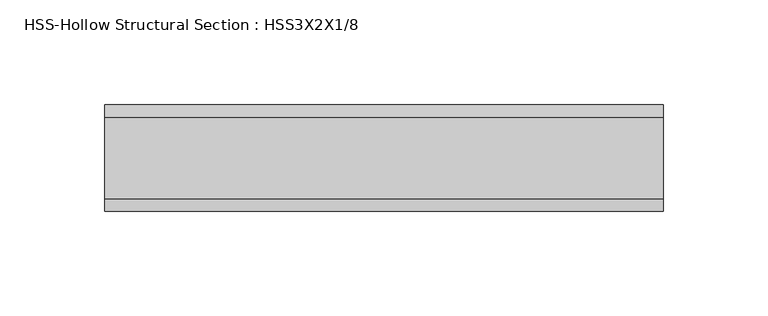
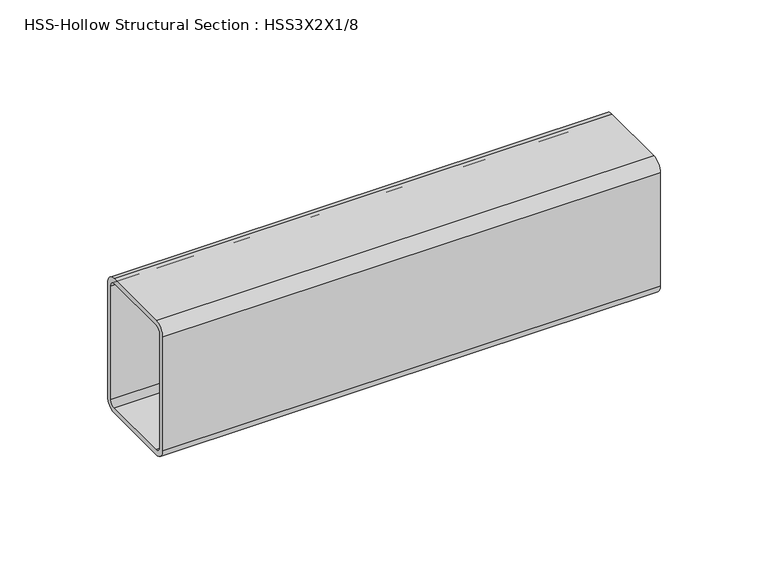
"""IFC4 building model written with IfcOpenShell, lengths in millimetres: beam geometry, HSS-Hollow Structural Section : HSS3X2X1/8."""

from ifc_helpers import new_model, si_unit, point, frame, frame_2d, origin, place, context, project, spatial, polyline, circle_curve, trimmed, segment, composite_curve, outline, extrude, source, transform, mapped, element, save


def hss_hollow_structural_section_hss3x2x1_8_4448584e(model_context):
    return source(origin(), model_context, "Body", "SweptSolid", [
        extrude(outline(composite_curve([segment(polyline([(25.4, 32.2072), (25.4, -32.2072)]), True, "CONTINUOUS"), segment(trimmed(circle_curve(frame_2d((19.5072, -32.2072)), 5.8928), [point((25.4, -32.2072))], [point((19.5072, -38.1))], False, "CARTESIAN"), True, "CONTINUOUS"), segment(polyline([(19.5072, -38.1), (-19.5072, -38.1)]), True, "CONTINUOUS"), segment(trimmed(circle_curve(frame_2d((-19.5072, -32.2072)), 5.8928), [point((-19.5072, -38.1))], [point((-25.4, -32.2072))], False, "CARTESIAN"), True, "CONTINUOUS"), segment(polyline([(-25.4, -32.2072), (-25.4, 32.2072)]), True, "CONTINUOUS"), segment(trimmed(circle_curve(frame_2d((-19.5072, 32.2072)), 5.8928), [point((-25.4, 32.2072))], [point((-19.5072, 38.1))], False, "CARTESIAN"), True, "CONTINUOUS"), segment(polyline([(-19.5072, 38.1), (19.5072, 38.1)]), True, "CONTINUOUS"), segment(trimmed(circle_curve(frame_2d((19.5072, 32.2072)), 5.8928), [point((19.5072, 38.1))], [point((25.4, 32.2072))], False, "CARTESIAN"), True, "CONTINUOUS")], self_intersect=False), holes=[composite_curve([segment(trimmed(circle_curve(frame_2d((-19.5072, 32.2072)), 2.9464), [point((-19.5072, 35.1536))], [point((-22.4536, 32.2072))], True, "CARTESIAN"), True, "CONTINUOUS"), segment(polyline([(-22.4536, 32.2072), (-22.4536, -32.2072)]), True, "CONTINUOUS"), segment(trimmed(circle_curve(frame_2d((-19.5072, -32.2072)), 2.9464), [point((-22.4536, -32.2072))], [point((-19.5072, -35.1536))], True, "CARTESIAN"), True, "CONTINUOUS"), segment(polyline([(-19.5072, -35.1536), (19.5072, -35.1536)]), True, "CONTINUOUS"), segment(trimmed(circle_curve(frame_2d((19.5072, -32.2072)), 2.9464), [point((19.5072, -35.1536))], [point((22.4536, -32.2072))], True, "CARTESIAN"), True, "CONTINUOUS"), segment(polyline([(22.4536, -32.2072), (22.4536, 32.2072)]), True, "CONTINUOUS"), segment(trimmed(circle_curve(frame_2d((19.5072, 32.2072)), 2.9464), [point((22.4536, 32.2072))], [point((19.5072, 35.1536))], True, "CARTESIAN"), True, "CONTINUOUS"), segment(polyline([(19.5072, 35.1536), (-19.5072, 35.1536)]), True, "CONTINUOUS")], self_intersect=False)]), frame((-152.4, 0.0, 0.0), z_axis=(1.0, 0.0, 0.0), x_axis=(0.0, 1.0, 0.0)), (0.0, 0.0, 1.0), 266.7),
    ])


if __name__ == "__main__":
    model = new_model("IFC4")
    model_context = context("Model", 3, world=origin())
    ifc_project = project(units=[si_unit("LENGTHUNIT", "METRE", prefix="MILLI")], contexts=[model_context])
    site = spatial("IfcSite", under=ifc_project)
    building = spatial("IfcBuilding", under=site)
    placement = place(None, origin())
    hss_hollow_structural_section_hss3x2x1_8_shape = hss_hollow_structural_section_hss3x2x1_8_4448584e(model_context)
    element("IfcBeam", 1, ObjectType="HSS-Hollow Structural Section : HSS3X2X1/8", at=placement, inside=building, context=model_context, shape_type="MappedRepresentation", body=[
        mapped(hss_hollow_structural_section_hss3x2x1_8_shape, transform((0.0, 0.0, 0.0), x_axis=(1.0, 0.0, 0.0), y_axis=(0.0, 1.0, 0.0), z_axis=(0.0, 0.0, 1.0))),
    ])
    save(model, "model.ifc")
